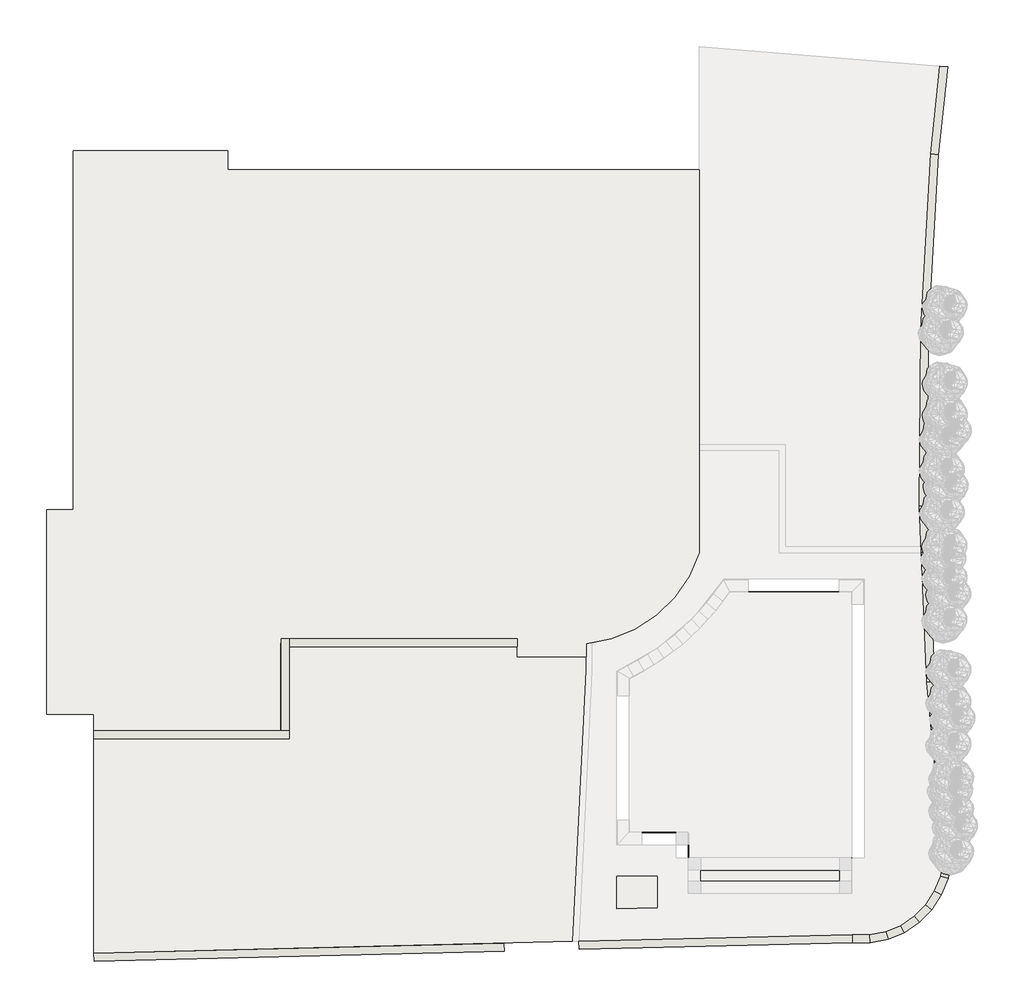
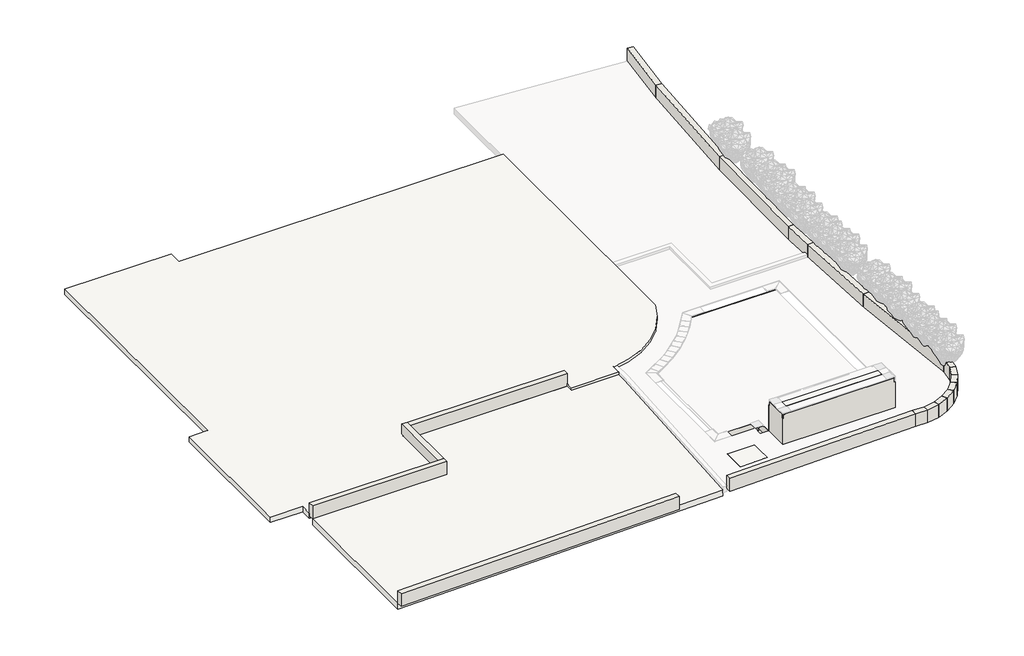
# One storey, part 1 of 2: 31 walls, 5 slabs.
"""IFC4 building model written with IfcOpenShell, lengths in millimetres."""

from ifc_helpers import new_model, si_unit, point, frame, frame_2d, origin, origin_with_axes, place, context, project, spatial, polyline, circle_curve, trimmed, segment, composite_curve, outline, extrude, faceted_brep, element, save
from ifc_brep_helpers import plane_surface, cylinder_surface, revolved_surface, advanced_brep

model = new_model("IFC4")

# Units and contexts
model_context = context("Model", 3, world=origin())
ifc_project = project(units=[si_unit("LENGTHUNIT", "METRE", prefix="MILLI")], contexts=[model_context])

# Site, building, storey
site = spatial("IfcSite", under=ifc_project)
building = spatial("IfcBuilding", under=site)
storey = spatial("IfcBuildingStorey", under=building, Name="1_NPlaya", Elevation=0.0)

# Slabs
placement = place(None, origin())
element("IfcSlab", 1, ObjectType="Pieza 316_Patrón 1/3_Serena_Ocra_Anti-Slip", at=placement, inside=storey, context=model_context, shape_type="SweptSolid", body=[
    extrude(outline(polyline([(9252.0630023, 7555.3154249), (9252.0630023, 6975.3420135), (5171.1161794, 6975.3420135), (5171.1161794, 7555.3154249), (9252.0630023, 7555.3154249)])), frame((0.0, 0.0, -339.0), z_axis=(0.0, 0.0, 1.0), x_axis=(1.0, 0.0, 0.0)), (0.0, 0.0, 1.0), 9.0),
])
element("IfcSlab", 2, ObjectType="Pieza 316_Patrón 1/3_Serena_Ocra_Anti-Slip", at=placement, inside=storey, context=model_context, shape_type="SweptSolid", body=[
    extrude(outline(polyline([(8972.370739, 6631.3154249), (8972.370739, 6360.5654249), (5448.3709427, 6360.5654249), (5448.3709427, 6631.3154249), (8972.370739, 6631.3154249)])), frame((0.0, 0.0, 1191.0), z_axis=(0.0, 0.0, 1.0), x_axis=(1.0, 0.0, 0.0)), (0.0, 0.0, 1.0), 9.0),
])
element("IfcSlab", 3, ObjectType="GENÉRICO_HIERBA", at=placement, inside=storey, context=model_context, shape_type="SweptSolid", body=[
    extrude(outline(polyline([(2205.8343384, 4822.6753345), (-9955.4748122, 4526.8784426), (-9955.4748122, 9972.6444095), (-4999.4748122, 9972.6444095), (-4999.4748122, 12309.334328), (2570.5774581, 12309.334328), (2205.8343384, 4822.6753345)])), frame((0.0, 0.0, -231.0), z_axis=(0.0, 0.0, 1.0), x_axis=(1.0, 0.0, 0.0)), (0.0, 0.0, 1.0), 231.0),
])
element("IfcSlab", 4, ObjectType="GENÉRICO_LOSA 20 cm", at=placement, inside=storey, context=model_context, shape_type="SweptSolid", body=[
    extrude(outline(composite_curve([segment(trimmed(circle_curve(frame_2d((2192.888818, 15750.5056716)), 3391.9401382), [point((5416.5251878, 14695.3154249))], [point((2541.0186341, 12376.4778809))], False, "CARTESIAN"), True, "CONTINUOUS"), segment(polyline([(2541.0186341, 12376.4778809), (2541.0186341, 12045.3154249), (790.8409343, 12045.3154249), (790.8409343, 12409.334328), (-5219.4748122, 12409.334328), (-5219.4748122, 10172.6444095), (-9955.4748122, 10172.6444095), (-9955.4748122, 10595.3160186), (-11155.4748122, 10595.3160186), (-11155.4748122, 15785.3154249), (-10475.4748122, 15785.3154249), (-10475.4748122, 24895.3154249), (-6550.4748122, 24895.3154249), (-6550.4748122, 24415.3154249), (5416.5251878, 24415.3154249), (5416.5251878, 18465.6699421), (5416.5251878, 17295.3154249), (5416.5251878, 14695.3154249)]), True, "CONTINUOUS")], self_intersect=False)), frame((0.0, 0.0, -100.0), z_axis=(0.0, 0.0, 1.0), x_axis=(1.0, 0.0, 0.0)), (0.0, 0.0, 1.0), 200.0),
])
element("IfcSlab", 5, ObjectType="GENÉRICO_HIERBA", at=placement, inside=storey, context=model_context, shape_type="SweptSolid", body=[
    extrude(outline(polyline([(3323.8395909, 6478.3154249), (4342.0895909, 6478.3154249), (4342.0895909, 5674.8716131), (3323.8395909, 5650.1049386), (3323.8395909, 6478.3154249)])), frame((0.0, 0.0, -231.0), z_axis=(0.0, 0.0, 1.0), x_axis=(1.0, 0.0, 0.0)), (0.0, 0.0, 1.0), 231.0),
])

# Walls
element("IfcWall", 6, ObjectType="Pieza 316_Patrón 1/3_Serena_Ocra_Anti-Slip", at=placement, inside=storey, context=model_context, shape_type="AdvancedBrep", body=[
    advanced_brep(
    [(5132.0895909, 7586.3154249, -1068.4348895), (9282.0895909, 7586.3154249, -1068.4348895), (9282.0895909, 7586.3154249, -370.0), (5101.0895909, 7586.3154249, -370.0), (5101.0895909, 7586.3154249, -37.0), (3641.0895909, 7586.3154249, -37.0), (3641.0895909, 7586.3154249, -169.9734114), (3641.0895909, 7586.3154249, -170.3431904), (3671.1095115, 7586.3154249, -200.0000001), (3901.0895909, 7586.3154249, -200.0000001), (3932.0895909, 7586.3154249, -214.7215508), (3932.0895909, 7586.3154249, -400.0), (4201.0895909, 7586.3154249, -400.0), (4232.0895909, 7586.3154249, -414.7215507), (4232.0895909, 7586.3154249, -580.0), (4501.0895909, 7586.3154249, -580.0), (4532.0895909, 7586.3154249, -594.7215507), (4532.0895909, 7586.3154249, -760.0), (4801.0895909, 7586.3154249, -760.0), (4832.0895909, 7586.3154249, -774.7215507), (4832.0895909, 7586.3154249, -940.0), (5101.0895909, 7586.3154249, -940.0), (5132.0895909, 7586.3154249, -954.7215507), (5132.0895909, 7595.3154249, -1068.4348895), (5132.0895909, 7595.3154249, -980.0), (5132.0895909, 7595.3154249, -954.7215507), (5101.0895909, 7595.3154249, -940.0), (4832.0895909, 7595.3154249, -940.0), (4832.0895909, 7595.3154249, -911.5602227), (4832.0895909, 7595.3154249, -800.0), (4832.0895909, 7595.3154249, -774.7215507), (4801.0895909, 7595.3154249, -760.0), (4532.0895909, 7595.3154249, -760.0), (4532.0895909, 7595.3154249, -729.9734114), (4532.0895909, 7595.3154249, -620.0), (4532.0895909, 7595.3154249, -594.7215507), (4501.0895909, 7595.3154249, -580.0), (4232.0895909, 7595.3154249, -580.0), (4232.0895909, 7595.3154249, -550.4327836), (4232.0895909, 7595.3154249, -440.0), (4232.0895909, 7595.3154249, -414.7215507), (4201.0895909, 7595.3154249, -400.0), (3932.0895909, 7595.3154249, -400.0), (3932.0895909, 7595.3154249, -368.7238729), (3932.0895909, 7595.3154249, -240.0), (3932.0895909, 7595.3154249, -214.7215508), (3901.0895909, 7595.3154249, -200.0000001), (3671.1095115, 7595.3154249, -200.0000001), (3641.0895909, 7595.3154249, -170.3431904), (3641.0895909, 7595.3154249, -37.0), (5101.0895909, 7595.3154249, -37.0), (5101.0895909, 7595.3154249, -370.0), (9282.0895909, 7595.3154249, -370.0), (9282.0895909, 7595.3154249, -1068.4348895)],
    [
        (0, 1),
        (1, 2),
        (2, 3),
        (3, 4),
        (4, 5),
        (5, 6),
        (6, 7),
        (7, 8, circle_curve(frame((3671.1095115, 7586.3154249, -169.9778565), z_axis=(0.0, -1.0, 0.0), x_axis=(-1.0, 0.0, 0.0)), 30.0221436)),
        (8, 9),
        (9, 10, circle_curve(frame((3901.0895909, 7586.3154249, -240.0000001), z_axis=(0.0, 1.0, 0.0), x_axis=(-1.0, 0.0, 0.0)), 40.0)),
        (10, 11),
        (11, 12),
        (12, 13, circle_curve(frame((4201.0895909, 7586.3154249, -440.0), z_axis=(0.0, 1.0, 0.0), x_axis=(-1.0, 0.0, 0.0)), 40.0)),
        (13, 14),
        (14, 15),
        (15, 16, circle_curve(frame((4501.0895909, 7586.3154249, -620.0), z_axis=(0.0, 1.0, 0.0), x_axis=(-1.0, 0.0, 0.0)), 40.0)),
        (16, 17),
        (17, 18),
        (18, 19, circle_curve(frame((4801.0895909, 7586.3154249, -800.0), z_axis=(0.0, 1.0, 0.0), x_axis=(-1.0, 0.0, 0.0)), 40.0)),
        (19, 20),
        (20, 21),
        (21, 22, circle_curve(frame((5101.0895909, 7586.3154249, -980.0), z_axis=(0.0, 1.0, 0.0), x_axis=(-1.0, 0.0, 0.0)), 40.0)),
        (22, 0),
        (23, 24),
        (24, 25),
        (25, 26, circle_curve(frame((5101.0895909, 7595.3154249, -980.0), z_axis=(0.0, -1.0, 0.0), x_axis=(-1.0, 0.0, 0.0)), 40.0)),
        (26, 27),
        (27, 28),
        (28, 29),
        (29, 30),
        (30, 31, circle_curve(frame((4801.0895909, 7595.3154249, -800.0), z_axis=(0.0, -1.0, 0.0), x_axis=(-1.0, 0.0, 0.0)), 40.0)),
        (31, 32),
        (32, 33),
        (33, 34),
        (34, 35),
        (35, 36, circle_curve(frame((4501.0895909, 7595.3154249, -620.0), z_axis=(0.0, -1.0, 0.0), x_axis=(-1.0, 0.0, 0.0)), 40.0)),
        (36, 37),
        (37, 38),
        (38, 39),
        (39, 40),
        (40, 41, circle_curve(frame((4201.0895909, 7595.3154249, -440.0), z_axis=(0.0, -1.0, 0.0), x_axis=(-1.0, 0.0, 0.0)), 40.0)),
        (41, 42),
        (42, 43),
        (43, 44),
        (44, 45),
        (45, 46, circle_curve(frame((3901.0895909, 7595.3154249, -240.0000001), z_axis=(0.0, -1.0, 0.0), x_axis=(-1.0, 0.0, 0.0)), 40.0)),
        (46, 47),
        (47, 48, circle_curve(frame((3671.1095115, 7595.3154249, -169.9778565), z_axis=(0.0, 1.0, 0.0), x_axis=(-1.0, 0.0, 0.0)), 30.0221436)),
        (48, 49),
        (49, 50),
        (50, 51),
        (51, 52),
        (52, 53),
        (53, 23),
        (0, 23),
        (53, 1),
        (52, 2),
        (51, 3),
        (50, 4),
        (49, 5),
        (48, 7),
        (8, 47),
        (46, 9),
        (11, 42),
        (41, 12),
        (14, 37),
        (36, 15),
        (17, 32),
        (31, 18),
        (20, 27),
        (26, 21),
        (22, 25),
        (19, 30),
        (16, 35),
        (13, 40),
        (10, 45),
    ],
    [
        plane_surface(frame((5136.5895909, 7586.3154249, -1068.4348895), z_axis=(0.0, -1.0, 0.0), x_axis=(1.0, 0.0, 0.0))),
        plane_surface(frame((5136.5895909, 7595.3154249, -1068.4348895), z_axis=(0.0, 1.0, 0.0), x_axis=(-1.0, 0.0, 0.0))),
        plane_surface(frame((5136.5895909, 7586.3154249, -1068.4348895), z_axis=(0.0, 0.0, -1.0), x_axis=(0.0, 1.0, 0.0))),
        plane_surface(frame((9282.0895909, 7586.3154249, -1068.4348895), z_axis=(1.0, 0.0, 0.0), x_axis=(0.0, 1.0, 0.0))),
        plane_surface(frame((9282.0895909, 7586.3154249, -370.0), z_axis=(0.0, 0.0, 1.0), x_axis=(0.0, 1.0, 0.0))),
        plane_surface(frame((5101.0895909, 7586.3154249, -370.0), z_axis=(1.0, 0.0, 0.0), x_axis=(0.0, 1.0, 0.0))),
        plane_surface(frame((5101.0895909, 7586.3154249, -37.0), z_axis=(0.0, 0.0, 1.0), x_axis=(0.0, 1.0, 0.0))),
        plane_surface(frame((3641.0895909, 7586.3154249, -37.0), z_axis=(-1.0, 0.0, 0.0), x_axis=(0.0, 1.0, 0.0))),
        plane_surface(frame((3671.1095115, 7586.3154249, -200.0000001), z_axis=(0.0, 0.0, -1.0), x_axis=(0.0, 1.0, 0.0))),
        plane_surface(frame((3936.5895909, 7586.3154249, -400.0), z_axis=(0.0, 0.0, -1.0), x_axis=(0.0, 1.0, 0.0))),
        plane_surface(frame((4236.5895909, 7586.3154249, -580.0), z_axis=(0.0, 0.0, -1.0), x_axis=(0.0, 1.0, 0.0))),
        plane_surface(frame((4536.5895909, 7586.3154249, -760.0), z_axis=(0.0, 0.0, -1.0), x_axis=(0.0, 1.0, 0.0))),
        plane_surface(frame((4836.5895909, 7586.3154249, -940.0), z_axis=(0.0, 0.0, -1.0), x_axis=(0.0, 1.0, 0.0))),
        plane_surface(frame((5132.0895909, 12506.0757715, -1670.3717209), z_axis=(-1.0, 0.0, 0.0), x_axis=(0.0, -0.9867347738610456, -0.16234064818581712))),
        plane_surface(frame((4832.0895909, 8795.3154249, -911.5602227), z_axis=(-1.0, 0.0, 0.0), x_axis=(0.0, -1.0, 0.0))),
        plane_surface(frame((4532.0895909, 8795.3154249, -729.9734114), z_axis=(-1.0, 0.0, 0.0), x_axis=(0.0, -1.0, 0.0))),
        plane_surface(frame((4232.0895909, 8795.3154249, -550.4327836), z_axis=(-1.0, 0.0, 0.0), x_axis=(0.0, -1.0, 0.0))),
        plane_surface(frame((3932.0895909, 8795.3154249, -368.7238729), z_axis=(-1.0, 0.0, 0.0), x_axis=(0.0, -1.0, 0.0))),
        cylinder_surface(frame((3671.1095115, 7595.3154249, -169.9778565), z_axis=(0.0, -1.0, 0.0), x_axis=(-1.0, 0.0, 0.0)), 30.0221436),
        revolved_surface(polyline([(3861.0895909, 7595.3154249, -240.0000001), (3861.0895909, 7586.3154249, -240.0000001)]), (3901.0895909, 7595.3154249, -240.0000001), (0.0, 1.0, 0.0)),
        revolved_surface(polyline([(4161.0895909, 7595.3154249, -440.0), (4161.0895909, 7586.3154249, -440.0)]), (4201.0895909, 7595.3154249, -440.0), (0.0, 1.0, 0.0)),
        revolved_surface(polyline([(4461.0895909, 7595.3154249, -620.0), (4461.0895909, 7586.3154249, -620.0)]), (4501.0895909, 7595.3154249, -620.0), (0.0, 1.0, 0.0)),
        revolved_surface(polyline([(4761.0895909, 7595.3154249, -800.0), (4761.0895909, 7586.3154249, -800.0)]), (4801.0895909, 7595.3154249, -800.0), (0.0, 1.0, 0.0)),
        revolved_surface(polyline([(5061.0895909, 7595.3154249, -980.0), (5061.0895909, 7586.3154249, -980.0)]), (5101.0895909, 7595.3154249, -980.0), (0.0, 1.0, 0.0)),
    ],
    [
        (0, [[1, 2, 3, 4, 5, 6, 7, 8, 9, 10, 11, 12, 13, 14, 15, 16, 17, 18, 19, 20, 21, 22, 23]]),
        (1, [[24, 25, 26, 27, 28, 29, 30, 31, 32, 33, 34, 35, 36, 37, 38, 39, 40, 41, 42, 43, 44, 45, 46, 47, 48, 49, 50, 51, 52, 53, 54]]),
        (2, [[-1, 55, -54, 56]]),
        (3, [[-2, -56, -53, 57]]),
        (4, [[-3, -57, -52, 58]]),
        (5, [[-4, -58, -51, 59]]),
        (6, [[-5, -59, -50, 60]]),
        (7, [[-7, -6, -60, -49, 61]]),
        (8, [[-9, 62, -47, 63]]),
        (9, [[-12, 64, -42, 65]]),
        (10, [[-15, 66, -37, 67]]),
        (11, [[-18, 68, -32, 69]]),
        (12, [[-21, 70, -27, 71]]),
        (13, [[-23, 72, -25, -24, -55]]),
        (14, [[-20, 73, -30, -29, -28, -70]]),
        (15, [[-17, 74, -35, -34, -33, -68]]),
        (16, [[-14, 75, -40, -39, -38, -66]]),
        (17, [[-11, 76, -45, -44, -43, -64]]),
        (18, [[-8, -61, -48, -62]]),
        (19, [[-10, -63, -46, -76]]),
        (20, [[-13, -65, -41, -75]]),
        (21, [[-16, -67, -36, -74]]),
        (22, [[-19, -69, -31, -73]]),
        (23, [[-22, -71, -26, -72]]),
    ],
),
])
element("IfcWall", 7, ObjectType="Pieza 316_Patrón 1/3_Serena_Ocra_Anti-Slip", at=placement, inside=storey, context=model_context, shape_type="Brep", body=[
    faceted_brep([(5132.0895909, 6936.3154249, -326.5564755), (9282.0895909, 6936.3154249, -326.5564755), (9282.0895909, 6936.3154249, -9.0), (9282.0895909, 6936.3154249, 1007.0), (9273.0895909, 6936.3154249, 1007.0), (9241.9312661, 6936.3154249, 1007.0), (9241.9312661, 6936.3154249, 1162.4825966), (5173.4979156, 6936.3154249, 1162.4825966), (5173.4979156, 6936.3154249, 1007.0), (5142.0895909, 6936.3154249, 1007.0), (5133.0895909, 6936.3154249, 1007.0), (5133.0895909, 6936.3154249, 0.0), (5132.0895909, 6936.3154249, 0.0), (6173.4979156, 6936.3154249, 631.5191339), (6173.4979156, 6936.3154249, 651.5191339), (8286.5895909, 6936.3154249, 651.5191339), (8286.5895909, 6936.3154249, 631.5191339), (5132.0895909, 6945.3154249, -326.5564755), (5132.0895909, 6945.3154249, -299.9734114), (5132.0895909, 6945.3154249, -38.0), (5132.0895909, 6945.3154249, 0.0), (5133.0895909, 6945.3154249, 0.0), (5133.0895909, 6945.3154249, 1007.0), (5173.4979156, 6945.3154249, 1007.0), (5173.4979156, 6945.3154249, 1162.4825966), (9241.9312661, 6945.3154249, 1162.4825966), (9241.9312661, 6945.3154249, 1007.0), (9282.0895909, 6945.3154249, 1007.0), (9282.0895909, 6945.3154249, -326.5564755), (6173.4979156, 6945.3154249, 631.5191339), (8286.5895909, 6945.3154249, 631.5191339), (8286.5895909, 6945.3154249, 651.5191339), (6173.4979156, 6945.3154249, 651.5191339)], [[[0, 1, 2, 3, 4, 5, 6, 7, 8, 9, 10, 11, 12], [13, 14, 15, 16]], [[17, 18, 19, 20, 21, 22, 23, 24, 25, 26, 27, 28], [29, 30, 31, 32]], [[0, 12, 20, 19, 18, 17]], [[11, 10, 22, 21]], [[1, 0, 17, 28]], [[7, 6, 25, 24]], [[11, 21, 20, 12]], [[5, 4, 3, 27, 26]], [[6, 5, 26, 25]], [[3, 2, 1, 28, 27]], [[8, 7, 24, 23]], [[10, 9, 8, 23, 22]], [[14, 13, 29, 32]], [[15, 14, 32, 31]], [[16, 15, 31, 30]], [[13, 16, 30, 29]]]),
])
element("IfcWall", 8, ObjectType="Pieza 316_Patrón 1/3_Serena_Ocra_Anti-Slip", at=placement, inside=storey, context=model_context, shape_type="SweptSolid", body=[
    extrude(outline(polyline([(5132.0895909, 6945.3154249), (5132.0895909, 7555.3154249), (5141.0895909, 7555.3154249), (5141.0895909, 6945.3154249), (5132.0895909, 6945.3154249)])), frame((0.0, 0.0, -299.9734114), z_axis=(0.0, 0.0, 1.0), x_axis=(1.0, 0.0, 0.0)), (0.0, 0.0, 1.0), 261.9734114),
])
element("IfcWall", 9, ObjectType="Pieza 316_Patrón 1/3_Serena_Ocra_Anti-Slip", at=placement, inside=storey, context=model_context, shape_type="AdvancedBrep", body=[
    advanced_brep(
    [(5101.0895909, 8804.3154249, -955.5131603), (4832.0895909, 8804.3154249, -955.5131603), (4832.0895909, 8804.3154249, -774.7215507), (4801.0895909, 8804.3154249, -760.0), (4532.0895909, 8804.3154249, -760.0), (4532.0895909, 8804.3154249, -594.7215507), (4501.0895909, 8804.3154249, -580.0), (4232.0895909, 8804.3154249, -580.0), (4232.0895909, 8804.3154249, -414.7215507), (4201.0895909, 8804.3154249, -400.0), (3932.0895909, 8804.3154249, -400.0), (3932.0895909, 8804.3154249, -240.0), (5101.0895909, 8804.3154249, -240.0), (5101.0895909, 8795.3154249, -955.5131603), (5101.0895909, 8795.3154249, -240.0), (3941.0895909, 8795.3154249, -240.0), (3932.0895909, 8795.3154249, -240.0), (3932.0895909, 8795.3154249, -368.7238729), (3932.0895909, 8795.3154249, -400.0), (4201.0895909, 8795.3154249, -400.0), (4232.0895909, 8795.3154249, -414.7215507), (4232.0895909, 8795.3154249, -440.0), (4232.0895909, 8795.3154249, -550.4327836), (4232.0895909, 8795.3154249, -580.0), (4501.0895909, 8795.3154249, -580.0), (4532.0895909, 8795.3154249, -594.7215507), (4532.0895909, 8795.3154249, -620.0), (4532.0895909, 8795.3154249, -729.9734114), (4532.0895909, 8795.3154249, -760.0), (4801.0895909, 8795.3154249, -760.0), (4832.0895909, 8795.3154249, -774.7215507), (4832.0895909, 8795.3154249, -800.0), (4832.0895909, 8795.3154249, -911.5602227), (4832.0895909, 8795.3154249, -955.5131603)],
    [
        (0, 1),
        (1, 2),
        (2, 3, circle_curve(frame((4801.0895909, 8804.3154249, -800.0), z_axis=(0.0, -1.0, 0.0), x_axis=(1.0, 0.0, 0.0)), 40.0)),
        (3, 4),
        (4, 5),
        (5, 6, circle_curve(frame((4501.0895909, 8804.3154249, -620.0), z_axis=(0.0, -1.0, 0.0), x_axis=(1.0, 0.0, 0.0)), 40.0)),
        (6, 7),
        (7, 8),
        (8, 9, circle_curve(frame((4201.0895909, 8804.3154249, -440.0), z_axis=(0.0, -1.0, 0.0), x_axis=(1.0, 0.0, 0.0)), 40.0)),
        (9, 10),
        (10, 11),
        (11, 12),
        (12, 0),
        (13, 14),
        (14, 15),
        (15, 16),
        (16, 17),
        (17, 18),
        (18, 19),
        (19, 20, circle_curve(frame((4201.0895909, 8795.3154249, -440.0), z_axis=(0.0, 1.0, 0.0), x_axis=(1.0, 0.0, 0.0)), 40.0)),
        (20, 21),
        (21, 22),
        (22, 23),
        (23, 24),
        (24, 25, circle_curve(frame((4501.0895909, 8795.3154249, -620.0), z_axis=(0.0, 1.0, 0.0), x_axis=(1.0, 0.0, 0.0)), 40.0)),
        (25, 26),
        (26, 27),
        (27, 28),
        (28, 29),
        (29, 30, circle_curve(frame((4801.0895909, 8795.3154249, -800.0), z_axis=(0.0, 1.0, 0.0), x_axis=(1.0, 0.0, 0.0)), 40.0)),
        (30, 31),
        (31, 32),
        (32, 33),
        (33, 13),
        (0, 13),
        (33, 1),
        (11, 16),
        (14, 12),
        (3, 29),
        (28, 4),
        (6, 24),
        (23, 7),
        (9, 19),
        (18, 10),
        (30, 2),
        (25, 5),
        (20, 8),
    ],
    [
        plane_surface(frame((3941.0895909, 8804.3154249, -955.5131603), z_axis=(0.0, 1.0, 0.0), x_axis=(-1.0, 0.0, 0.0))),
        plane_surface(frame((3941.0895909, 8795.3154249, -955.5131603), z_axis=(0.0, -1.0, 0.0), x_axis=(1.0, 0.0, 0.0))),
        plane_surface(frame((5101.0895909, 8804.3154249, -955.5131603), z_axis=(0.0, 0.0, -1.0), x_axis=(0.0, -1.0, 0.0))),
        plane_surface(frame((3936.5895909, 8804.3154249, -240.0), z_axis=(0.0, 0.0, 1.0), x_axis=(0.0, -1.0, 0.0))),
        plane_surface(frame((5101.0895909, 8804.3154249, -240.0), z_axis=(1.0, 0.0, 0.0), x_axis=(0.0, -1.0, 0.0))),
        plane_surface(frame((4801.0895909, 8804.3154249, -760.0), z_axis=(0.0, 0.0, -1.0), x_axis=(0.0, -1.0, 0.0))),
        plane_surface(frame((4501.0895909, 8804.3154249, -580.0), z_axis=(0.0, 0.0, -1.0), x_axis=(0.0, -1.0, 0.0))),
        plane_surface(frame((4201.0895909, 8804.3154249, -400.0), z_axis=(0.0, 0.0, -1.0), x_axis=(0.0, -1.0, 0.0))),
        plane_surface(frame((4832.0895909, 8795.3154249, -911.5602227), z_axis=(-1.0, 0.0, 0.0), x_axis=(0.0, -1.0, 0.0))),
        plane_surface(frame((4532.0895909, 8795.3154249, -729.9734114), z_axis=(-1.0, 0.0, 0.0), x_axis=(0.0, -1.0, 0.0))),
        plane_surface(frame((4232.0895909, 8795.3154249, -550.4327836), z_axis=(-1.0, 0.0, 0.0), x_axis=(0.0, -1.0, 0.0))),
        plane_surface(frame((3932.0895909, 8795.3154249, -368.7238729), z_axis=(-1.0, 0.0, 0.0), x_axis=(0.0, -1.0, 0.0))),
        revolved_surface(polyline([(4841.0895909, 8795.3154249, -800.0), (4841.0895909, 8804.3154249, -800.0)]), (4801.0895909, 8795.3154249, -800.0), (0.0, -1.0, 0.0)),
        revolved_surface(polyline([(4541.0895909, 8795.3154249, -620.0), (4541.0895909, 8804.3154249, -620.0)]), (4501.0895909, 8795.3154249, -620.0), (0.0, -1.0, 0.0)),
        revolved_surface(polyline([(4241.0895909, 8795.3154249, -440.0), (4241.0895909, 8804.3154249, -440.0)]), (4201.0895909, 8795.3154249, -440.0), (0.0, -1.0, 0.0)),
    ],
    [
        (0, [[1, 2, 3, 4, 5, 6, 7, 8, 9, 10, 11, 12, 13]]),
        (1, [[14, 15, 16, 17, 18, 19, 20, 21, 22, 23, 24, 25, 26, 27, 28, 29, 30, 31, 32, 33, 34]]),
        (2, [[-1, 35, -34, 36]]),
        (3, [[-12, 37, -16, -15, 38]]),
        (4, [[-13, -38, -14, -35]]),
        (5, [[-4, 39, -29, 40]]),
        (6, [[-7, 41, -24, 42]]),
        (7, [[-10, 43, -19, 44]]),
        (8, [[-2, -36, -33, -32, -31, 45]]),
        (9, [[-5, -40, -28, -27, -26, 46]]),
        (10, [[-8, -42, -23, -22, -21, 47]]),
        (11, [[-11, -44, -18, -17, -37]]),
        (12, [[-3, -45, -30, -39]]),
        (13, [[-6, -46, -25, -41]]),
        (14, [[-9, -47, -20, -43]]),
    ],
),
])
element("IfcWall", 10, ObjectType="Pieza 316_Patrón 1/3_Serena_Ocra_Anti-Slip", at=placement, inside=storey, context=model_context, shape_type="SweptSolid", body=[
    extrude(outline(polyline([(3932.0895909, 7595.3154249), (3932.0895909, 8795.3154249), (3941.0895909, 8795.3154249), (3941.0895909, 7595.3154249), (3932.0895909, 7595.3154249)])), frame((0.0, 0.0, -368.7238729), z_axis=(0.0, 0.0, 1.0), x_axis=(1.0, 0.0, 0.0)), (0.0, 0.0, 1.0), 128.7238729),
])
element("IfcWall", 11, ObjectType="Pieza 316_Patrón 1/3_Serena_Ocra_Anti-Slip", at=placement, inside=storey, context=model_context, shape_type="SweptSolid", body=[
    extrude(outline(polyline([(4232.0895909, 7595.3154249), (4232.0895909, 8795.3154249), (4241.0895909, 8795.3154249), (4241.0895909, 7595.3154249), (4232.0895909, 7595.3154249)])), frame((0.0, 0.0, -550.4327836), z_axis=(0.0, 0.0, 1.0), x_axis=(1.0, 0.0, 0.0)), (0.0, 0.0, 1.0), 110.4327836),
])
element("IfcWall", 12, ObjectType="Pieza 316_Patrón 1/3_Serena_Ocra_Anti-Slip", at=placement, inside=storey, context=model_context, shape_type="SweptSolid", body=[
    extrude(outline(polyline([(4532.0895909, 7595.3154249), (4532.0895909, 8795.3154249), (4541.0895909, 8795.3154249), (4541.0895909, 7595.3154249), (4532.0895909, 7595.3154249)])), frame((0.0, 0.0, -729.9734114), z_axis=(0.0, 0.0, 1.0), x_axis=(1.0, 0.0, 0.0)), (0.0, 0.0, 1.0), 109.9734114),
])
element("IfcWall", 13, ObjectType="Pieza 316_Patrón 1/3_Serena_Ocra_Anti-Slip", at=placement, inside=storey, context=model_context, shape_type="SweptSolid", body=[
    extrude(outline(polyline([(4832.0895909, 7595.3154249), (4832.0895909, 8795.3154249), (4841.0895909, 8795.3154249), (4841.0895909, 7595.3154249), (4832.0895909, 7595.3154249)])), frame((0.0, 0.0, -911.5602227), z_axis=(0.0, 0.0, 1.0), x_axis=(1.0, 0.0, 0.0)), (0.0, 0.0, 1.0), 111.5602227),
])
element("IfcWall", 14, ObjectType="Pieza 316_Patrón 1/3_Serena_Ocra_Anti-Slip", at=placement, inside=storey, context=model_context, shape_type="AdvancedBrep", body=[
    advanced_brep(
    [(9282.0895909, 13704.3154249, -173.3982404), (6197.3513107, 13704.3154249, -173.3982404), (6197.3513107, 13704.3154249, -37.4687777), (9282.0895909, 13704.3154249, -37.4687777), (9282.0895909, 13704.3154249, -169.9734114), (9282.0895909, 13695.3154249, -173.3982404), (9282.0895909, 13695.3154249, -37.4687777), (6191.0895909, 13695.3154249, -37.4687777), (6191.0895909, 13695.3154249, -173.3982404)],
    [
        (0, 1),
        (1, 2),
        (2, 3),
        (3, 4),
        (4, 0),
        (5, 6),
        (6, 7),
        (7, 8),
        (8, 5),
        (0, 5),
        (8, 1, circle_curve(frame((613.1221589, 17582.8458574, -173.3982404), z_axis=(0.0, 0.0, 1.0), x_axis=(1.0, 0.0, 0.0)), 6799.0156299)),
        (2, 7, circle_curve(frame((613.1221589, 17582.8458574, -37.4687777), z_axis=(0.0, 0.0, -1.0), x_axis=(1.0, 0.0, 0.0)), 6799.0156299)),
        (6, 3),
    ],
    [
        plane_surface(frame((9291.0895909, 13704.3154249, -173.3982404), z_axis=(0.0, 1.0, 0.0), x_axis=(-1.0, 0.0, 0.0))),
        plane_surface(frame((9291.0895909, 13695.3154249, -173.3982404), z_axis=(0.0, -1.0, 0.0), x_axis=(1.0, 0.0, 0.0))),
        plane_surface(frame((9286.5895909, 13704.3154249, -173.3982404), z_axis=(0.0, 0.0, -1.0), x_axis=(0.0, -1.0, 0.0))),
        plane_surface(frame((6188.7402686, 13704.3154249, -37.4687777), z_axis=(0.0, 0.0, 1.0), x_axis=(0.0, -1.0, 0.0))),
        plane_surface(frame((9282.0895909, 13699.8154249, -200.0), z_axis=(1.0, 0.0, 0.0), x_axis=(0.0, 0.0, -1.0))),
        revolved_surface(polyline([(7412.1377888, 17582.8458574, -37.468777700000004), (7412.1377888, 17582.8458574, -173.3982404)]), (613.1221589, 17582.8458574, -203.3985869), (0.0, 0.0, 1.0)),
    ],
    [
        (0, [[1, 2, 3, 4, 5]]),
        (1, [[6, 7, 8, 9]]),
        (2, [[-1, 10, -9, 11]]),
        (3, [[-3, 12, -7, 13]]),
        (4, [[-5, -4, -13, -6, -10]]),
        (5, [[-2, -11, -8, -12]]),
    ],
),
])
element("IfcWall", 15, ObjectType="GENÉRICO_MURO BASE 20 cm", at=placement, inside=storey, context=model_context, shape_type="SweptSolid", body=[
    extrude(outline(polyline([(11717.0452031, 27024.9885938), (11483.6215241, 24797.3269871), (11284.207982, 24813.3736167), (11518.1342158, 27045.8313171), (11717.0452031, 27024.9885938)])), origin_with_axes(), (0.0, 0.0, 1.0), 500.0),
])
element("IfcWall", 16, ObjectType="GENÉRICO_MURO BASE 20 cm", at=placement, inside=storey, context=model_context, shape_type="SweptSolid", body=[
    extrude(outline(polyline([(11483.6215241, 24797.3269871), (11232.9012142, 20339.9354493), (11032.9452767, 20346.339186), (11284.207982, 24813.3736167), (11483.6215241, 24797.3269871)])), origin_with_axes(), (0.0, 0.0, 1.0), 500.0),
])
element("IfcWall", 17, ObjectType="GENÉRICO_MURO BASE 20 cm", at=placement, inside=storey, context=model_context, shape_type="SweptSolid", body=[
    extrude(outline(polyline([(11232.9012142, 20339.9354493), (11197.8856434, 15874.0901862), (10997.8517494, 15870.5514446), (11032.9452767, 20346.339186), (11232.9012142, 20339.9354493)])), origin_with_axes(), (0.0, 0.0, 1.0), 500.0),
])
element("IfcWall", 18, ObjectType="GENÉRICO_MURO BASE 20 cm", at=placement, inside=storey, context=model_context, shape_type="SweptSolid", body=[
    extrude(outline(polyline([(11197.8856434, 15874.0901862), (11248.4883647, 14703.9564329), (11048.675118, 14695.31546), (10997.8517494, 15870.5514446), (11197.8856434, 15874.0901862)])), origin_with_axes(), (0.0, 0.0, 1.0), 500.0),
])
element("IfcWall", 19, ObjectType="GENÉRICO_MURO BASE 20 cm", at=placement, inside=storey, context=model_context, shape_type="SweptSolid", body=[
    extrude(outline(polyline([(11248.5244522, 14704.0459702), (11393.5954874, 11416.3555956), (11194.0075407, 11402.6069808), (11048.7188745, 14695.2294459), (11248.5244522, 14704.0459702)])), origin_with_axes(), (0.0, 0.0, 1.0), 500.0),
])
element("IfcWall", 20, ObjectType="GENÉRICO_MURO BASE 20 cm", at=placement, inside=storey, context=model_context, shape_type="SweptSolid", body=[
    extrude(outline(polyline([(11393.5954874, 11416.3555956), (11810.4008511, 6969.427075), (11609.0471765, 6974.5171476), (11194.0075407, 11402.6069808), (11393.5954874, 11416.3555956)])), origin_with_axes(), (0.0, 0.0, 1.0), 500.0),
])
element("IfcWall", 21, ObjectType="GENÉRICO_MURO BASE 20 cm", at=placement, inside=storey, context=model_context, shape_type="SweptSolid", body=[
    extrude(outline(polyline([(11810.4008511, 6969.427075), (11732.2590343, 6430.5450318), (11537.7836462, 6483.0691838), (11609.0471765, 6974.5171476), (11810.4008511, 6969.427075)])), origin_with_axes(), (0.0, 0.0, 1.0), 500.0),
])
element("IfcWall", 22, ObjectType="GENÉRICO_MURO BASE 20 cm", at=placement, inside=storey, context=model_context, shape_type="SweptSolid", body=[
    extrude(outline(polyline([(11562.8169953, 6010.6767254), (11321.7265794, 5631.6313298), (11164.241546, 5756.6895285), (11384.2153032, 6102.5350467), (11562.8169953, 6010.6767254)])), origin_with_axes(), (0.0, 0.0, 1.0), 500.0),
])
element("IfcWall", 23, ObjectType="GENÉRICO_MURO BASE 20 cm", at=placement, inside=storey, context=model_context, shape_type="SweptSolid", body=[
    extrude(outline(polyline([(11732.2590343, 6430.5450318), (11562.8169953, 6010.6767254), (11384.2153032, 6102.5350467), (11537.7836462, 6483.0691838), (11732.2590343, 6430.5450318)])), origin_with_axes(), (0.0, 0.0, 1.0), 500.0),
])
element("IfcWall", 24, ObjectType="GENÉRICO_MURO BASE 20 cm", at=placement, inside=storey, context=model_context, shape_type="SweptSolid", body=[
    extrude(outline(polyline([(11321.7265794, 5631.6313298), (11002.053283, 5305.7341325), (10873.7363006, 5460.5282715), (11164.241546, 5756.6895285), (11321.7265794, 5631.6313298)])), origin_with_axes(), (0.0, 0.0, 1.0), 500.0),
])
element("IfcWall", 25, ObjectType="GENÉRICO_MURO BASE 20 cm", at=placement, inside=storey, context=model_context, shape_type="SweptSolid", body=[
    extrude(outline(polyline([(11002.053283, 5305.7341325), (10618.8177812, 5049.5495302), (10523.2970761, 5226.2672677), (10873.7363006, 5460.5282715), (11002.053283, 5305.7341325)])), origin_with_axes(), (0.0, 0.0, 1.0), 500.0),
])
element("IfcWall", 26, ObjectType="GENÉRICO_MURO BASE 20 cm", at=placement, inside=storey, context=model_context, shape_type="SweptSolid", body=[
    extrude(outline(polyline([(10618.8177812, 5049.5495302), (10206.3005389, 4874.2511433), (10148.493797, 5066.9953549), (10523.2970761, 5226.2672677), (10618.8177812, 5049.5495302)])), origin_with_axes(), (0.0, 0.0, 1.0), 500.0),
])
element("IfcWall", 27, ObjectType="GENÉRICO_MURO BASE 20 cm", at=placement, inside=storey, context=model_context, shape_type="SweptSolid", body=[
    extrude(outline(polyline([(10206.3005389, 4874.2511433), (9757.5670513, 4792.164255), (9740.0855109, 4992.2851621), (10148.493797, 5066.9953549), (10206.3005389, 4874.2511433)])), origin_with_axes(), (0.0, 0.0, 1.0), 500.0),
])
element("IfcWall", 28, ObjectType="GENÉRICO_MURO BASE 20 cm", at=placement, inside=storey, context=model_context, shape_type="SweptSolid", body=[
    extrude(outline(polyline([(9757.5670513, 4792.164255), (9301.5070027, 4795.2026949), (9299.7412419, 4995.2188977), (9740.0855109, 4992.2851621), (9757.5670513, 4792.164255)])), origin_with_axes(), (0.0, 0.0, 1.0), 500.0),
])
element("IfcWall", 29, ObjectType="GENÉRICO_MURO BASE 20 cm", at=placement, inside=storey, context=model_context, shape_type="SweptSolid", body=[
    extrude(outline(polyline([(9301.5070027, 4795.2026949), (2361.0535369, 4626.3915465), (2356.1904185, 4826.3324129), (9299.7412419, 4995.2188977), (9301.5070027, 4795.2026949)])), origin_with_axes(), (0.0, 0.0, 1.0), 500.0),
])
element("IfcWall", 30, ObjectType="GENÉRICO_MURO BASE 20 cm", at=placement, inside=storey, context=model_context, shape_type="SweptSolid", body=[
    extrude(outline(polyline([(458.799397, 4580.1234305), (-9950.6116937, 4326.9375761), (-9955.4748122, 4526.8784426), (453.9362785, 4780.0642969), (458.799397, 4580.1234305)])), origin_with_axes(), (0.0, 0.0, 1.0), 500.0),
])
element("IfcWall", 31, ObjectType="GENÉRICO_MURO BASE 20 cm", at=placement, inside=storey, context=model_context, shape_type="Brep", body=[
    faceted_brep([(-4999.4748122, 10172.6444095, 0.0), (-5199.4748122, 10172.6444095, 0.0), (-9955.4748122, 10172.6444095, 0.0), (-9955.4748122, 10172.6444095, 500.0), (-5199.4748122, 10172.6444095, 500.0), (-4999.4748122, 10172.6444095, 500.0), (-4999.4748122, 9972.6444095, 0.0), (-4999.4748122, 9972.6444095, 500.0), (-9955.4748122, 9972.6444095, 500.0), (-9955.4748122, 9972.6444095, 0.0)], [[[0, 1, 2, 3, 4, 5]], [[6, 7, 8, 9]], [[2, 1, 0, 6, 9]], [[3, 2, 9, 8]], [[5, 4, 3, 8, 7]], [[0, 5, 7, 6]]]),
])
element("IfcWall", 32, ObjectType="GENÉRICO_MURO BASE 20 cm", at=placement, inside=storey, context=model_context, shape_type="Brep", body=[
    faceted_brep([(-5199.4748122, 12509.334328, 0.0), (-5199.4748122, 10172.6444095, 0.0), (-5199.4748122, 10172.6444095, 500.0), (-5199.4748122, 12509.334328, 500.0), (-4999.4748122, 12509.334328, 0.0), (-4999.4748122, 12509.334328, 500.0), (-4999.4748122, 12309.334328, 500.0), (-4999.4748122, 10172.6444095, 500.0), (-4999.4748122, 10172.6444095, 0.0), (-4999.4748122, 12309.334328, 0.0)], [[[0, 1, 2, 3]], [[4, 5, 6, 7, 8, 9]], [[1, 0, 4, 9, 8]], [[3, 2, 7, 6, 5]], [[2, 1, 8, 7]], [[0, 3, 5, 4]]]),
])
element("IfcWall", 33, ObjectType="GENÉRICO_MURO BASE 20 cm", at=placement, inside=storey, context=model_context, shape_type="SweptSolid", body=[
    extrude(outline(polyline([(-4999.4748122, 12509.334328), (790.8409343, 12509.334328), (790.8409343, 12309.334328), (-4999.4748122, 12309.334328), (-4999.4748122, 12509.334328)])), origin_with_axes(), (0.0, 0.0, 1.0), 500.0),
])
element("IfcWall", 34, ObjectType="Pieza 316_Patrón 1/3_Serena_Ocra_Anti-Slip", at=placement, inside=storey, context=model_context, shape_type="Brep", body=[
    faceted_brep([(5133.0895909, 6045.1279249, 0.1909071), (9286.5895909, 6045.1279249, 0.1909071), (9286.5895909, 6045.1279249, 1007.0), (9241.9312661, 6045.1279249, 1007.0), (9241.9312661, 6045.1279249, 1162.4825966), (5173.1854156, 6045.1279249, 1162.4825966), (5173.1854156, 6045.1279249, 1007.0), (5133.0895909, 6045.1279249, 1007.0), (5133.0895909, 6054.1279249, 0.1909071), (5133.0895909, 6054.1279249, 1007.0), (5142.0895909, 6054.1279249, 1007.0), (5173.1854156, 6054.1279249, 1007.0), (5173.1854156, 6054.1279249, 1162.4825966), (9241.9312661, 6054.1279249, 1162.4825966), (9241.9312661, 6054.1279249, 1007.0), (9273.0895909, 6054.1279249, 1007.0), (9282.0895909, 6054.1279249, 1007.0), (9286.5895909, 6054.1279249, 1007.0), (9286.5895909, 6054.1279249, 0.1909071)], [[[0, 1, 2, 3, 4, 5, 6, 7]], [[8, 9, 10, 11, 12, 13, 14, 15, 16, 17, 18]], [[0, 7, 9, 8]], [[1, 0, 8, 18]], [[2, 1, 18, 17]], [[5, 4, 13, 12]], [[6, 5, 12, 11]], [[7, 6, 11, 10, 9]], [[3, 2, 17, 16, 15, 14]], [[4, 3, 14, 13]]]),
])
element("IfcWall", 35, ObjectType="Pieza 316_Patrón 1/3_Serena_Ocra_Anti-Slip", at=placement, inside=storey, context=model_context, shape_type="Brep", body=[
    faceted_brep([(5133.0895909, 6936.3154249, 0.0), (5133.0895909, 6054.1279249, 0.0), (5133.0895909, 6054.1279249, 0.1909071), (5133.0895909, 6054.1279249, 1007.0), (5133.0895909, 6085.1642381, 1007.0), (5133.0895909, 6085.1642381, 1162.4825966), (5133.0895909, 6905.1480194, 1162.4825966), (5133.0895909, 6905.1480194, 1007.0), (5133.0895909, 6936.3154249, 1007.0), (5142.0895909, 6936.3154249, 0.0), (5142.0895909, 6936.3154249, 1007.0), (5142.0895909, 6905.1480194, 1007.0), (5142.0895909, 6905.1480194, 1162.4825966), (5142.0895909, 6085.1642381, 1162.4825966), (5142.0895909, 6085.1642381, 1007.0), (5142.0895909, 6054.1279249, 1007.0), (5142.0895909, 6054.1279249, 0.0)], [[[0, 1, 2, 3, 4, 5, 6, 7, 8]], [[9, 10, 11, 12, 13, 14, 15, 16]], [[0, 8, 10, 9]], [[3, 2, 1, 16, 15]], [[1, 0, 9, 16]], [[6, 5, 13, 12]], [[7, 6, 12, 11]], [[8, 7, 11, 10]], [[4, 3, 15, 14]], [[5, 4, 14, 13]]]),
])
element("IfcWall", 36, ObjectType="Pieza 316_Patrón 1/3_Serena_Ocra_Anti-Slip", at=placement, inside=storey, context=model_context, shape_type="SweptSolid", body=[
    extrude(outline(polyline([(6936.3154249, -9.0), (6054.1279249, -9.0), (6054.1279249, 1007.0), (6085.0977423, 1007.0), (6085.0977423, 1162.4825966), (6905.1483576, 1162.4825966), (6905.1483576, 1007.0), (6936.3154249, 1007.0), (6936.3154249, -9.0)])), frame((9273.0895909, 0.0, 0.0), z_axis=(1.0, 0.0, 0.0), x_axis=(0.0, 1.0, 0.0)), (0.0, 0.0, 1.0), 9.0),
])

save(model, "model.ifc")
